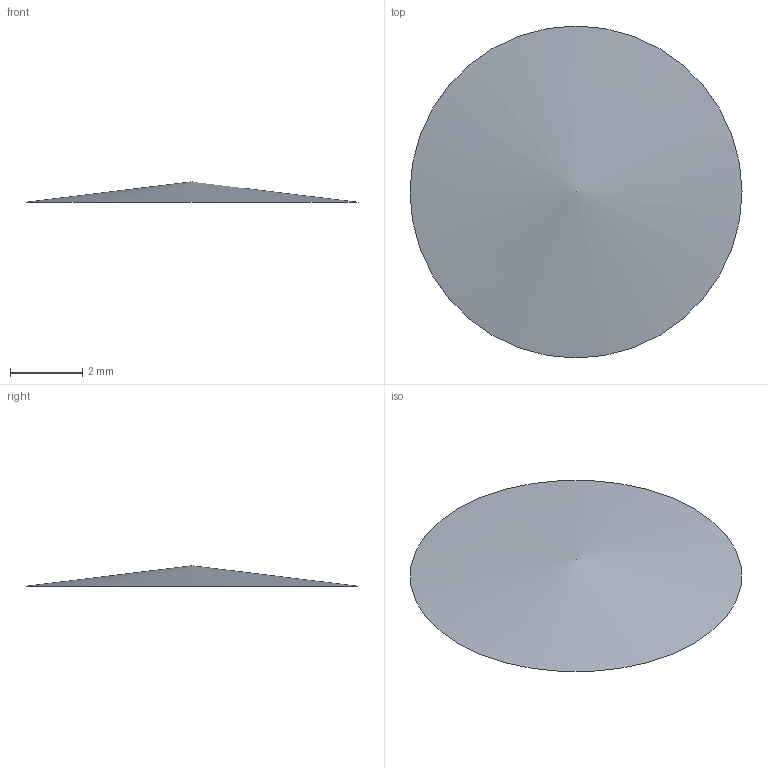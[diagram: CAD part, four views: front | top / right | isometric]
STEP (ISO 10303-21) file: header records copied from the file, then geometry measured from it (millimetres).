
FILE_DESCRIPTION(('STEP AP242 Edition 2','STEP AP242 Edition 2''CAx-IF Rec.Pracs.---Representation and Presentation of Product Manufacturing Information (PMI)---4.0---2014-10-13','STEP AP242 Edition 2''CAx-IF Rec.Pracs.---Representation and Presentation of Product Manufacturing Information (PMI)---4.0---2014-10-13''CAx-IF Rec.Pracs.---3D Tessellated Geometry---0.4---2014-09-14','STEP AP242 Edition 2''CAx-IF Rec.Pracs.---Representation and Presentation of Product Manufacturing Information (PMI)---4.0---2014-10-13''CAx-IF Rec.Pracs.---3D Tessellated Geometry---0.4---2014-09-14''2;1','STEP AP242 Edition 2''CAx-IF Rec.Pracs.---Representation and Presentation of Product Manufacturing Information (PMI)---4.0---2014-10-13''CAx-IF Rec.Pracs.---3D Tessellated Geometry---0.4---2014-09-14''2;1''CAx-IF Rec.Pracs.---User Defined Attributes---1.5---2016-08-15'),'2;1');
FILE_NAME('/vol/tmp/translate-14958899252267850940/3D_PCB_PCB_ESP32-sd-int_2026-03-29nosilk - Surface 7.step','2026-03-31T16:57:28',(''),(''),'ST-DEVELOPER v20','ONSHAPE BY PTC INC, 1.212',' ');
FILE_SCHEMA(('AP242_MANAGED_MODEL_BASED_3D_ENGINEERING_MIM_LF { 1 0 10303 442 3 1 4 }'));
Length unit declared in the file: metre
Products named in the file (1): Surface 1
Bounding box: 9.18 x 9.18 x 0.56 mm (x, y, z)
Volume: 12.4 mm3; surface area: 132.8 mm2
Topology: 1 solids, 1 shells, 2 faces, 4 edges, 3 vertices
Faces by surface type: plane 1, cone 1
Entity records: 51 total; most frequent: DIRECTION 8, CARTESIAN_POINT 6, AXIS2_PLACEMENT_3D 4, FACE_BOUND 3, ORIENTED_EDGE 2, VERTEX_POINT 2, EDGE_LOOP 2, ADVANCED_FACE 2
